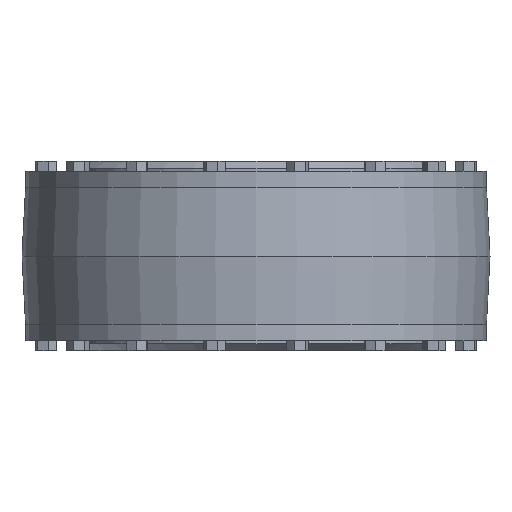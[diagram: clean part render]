
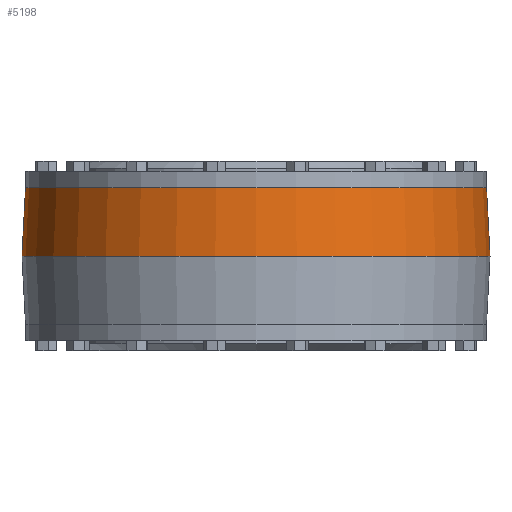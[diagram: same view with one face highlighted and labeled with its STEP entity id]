
A CAD part, front view. The second image highlights one B-rep face of the part: STEP entity #5198.
In plain terms, the highlighted conical face has half-angle 3 degrees and reference radius 223.97 mm.
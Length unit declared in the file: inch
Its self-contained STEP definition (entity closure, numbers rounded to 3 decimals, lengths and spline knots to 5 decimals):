
#66=CONICAL_SURFACE('',#5555,8.81774,0.052);
#188=CIRCLE('',#5553,8.75);
#189=CIRCLE('',#5554,8.75);
#190=CIRCLE('',#5556,8.88547);
#191=CIRCLE('',#5557,8.88547);
#450=FACE_OUTER_BOUND('',#757,.T.);
#757=EDGE_LOOP('',(#4421,#4422,#4423,#4424,#4425,#4426));
#1354=LINE('',#8268,#1951);
#1951=VECTOR('',#6843,8.81774);
#2410=VERTEX_POINT('',#8258);
#2411=VERTEX_POINT('',#8259);
#2412=VERTEX_POINT('',#8264);
#2413=VERTEX_POINT('',#8265);
#3081=EDGE_CURVE('',#2410,#2411,#188,.T.);
#3082=EDGE_CURVE('',#2411,#2410,#189,.T.);
#3084=EDGE_CURVE('',#2412,#2413,#190,.T.);
#3085=EDGE_CURVE('',#2413,#2412,#191,.T.);
#3086=EDGE_CURVE('',#2413,#2411,#1354,.T.);
#4421=ORIENTED_EDGE('',*,*,#3084,.F.);
#4422=ORIENTED_EDGE('',*,*,#3085,.F.);
#4423=ORIENTED_EDGE('',*,*,#3086,.T.);
#4424=ORIENTED_EDGE('',*,*,#3082,.T.);
#4425=ORIENTED_EDGE('',*,*,#3081,.T.);
#4426=ORIENTED_EDGE('',*,*,#3086,.F.);
#5198=ADVANCED_FACE('',(#450),#66,.T.);
#5553=AXIS2_PLACEMENT_3D('',#8260,#6832,#6833);
#5554=AXIS2_PLACEMENT_3D('',#8261,#6834,#6835);
#5555=AXIS2_PLACEMENT_3D('',#8263,#6837,#6838);
#5556=AXIS2_PLACEMENT_3D('',#8266,#6839,#6840);
#5557=AXIS2_PLACEMENT_3D('',#8267,#6841,#6842);
#6832=DIRECTION('center_axis',(0.,0.,-1.));
#6833=DIRECTION('ref_axis',(1.,0.,0.));
#6834=DIRECTION('center_axis',(0.,0.,-1.));
#6835=DIRECTION('ref_axis',(1.,0.,0.));
#6837=DIRECTION('center_axis',(0.,0.,-1.));
#6838=DIRECTION('ref_axis',(0.,1.,0.));
#6839=DIRECTION('center_axis',(0.,0.,-1.));
#6840=DIRECTION('ref_axis',(1.,0.,0.));
#6841=DIRECTION('center_axis',(0.,0.,-1.));
#6842=DIRECTION('ref_axis',(1.,0.,0.));
#6843=DIRECTION('',(0.,0.052,0.999));
#8258=CARTESIAN_POINT('',(0.,8.75,2.585));
#8259=CARTESIAN_POINT('',(0.,-8.75,2.585));
#8260=CARTESIAN_POINT('Origin',(0.,0.,2.585));
#8261=CARTESIAN_POINT('Origin',(0.,0.,2.585));
#8263=CARTESIAN_POINT('Origin',(0.,0.,1.2925));
#8264=CARTESIAN_POINT('',(0.,8.88547,0.));
#8265=CARTESIAN_POINT('',(0.,-8.88547,0.));
#8266=CARTESIAN_POINT('Origin',(0.,0.,0.));
#8267=CARTESIAN_POINT('Origin',(0.,0.,0.));
#8268=CARTESIAN_POINT('',(0.,-8.81774,1.2925));
